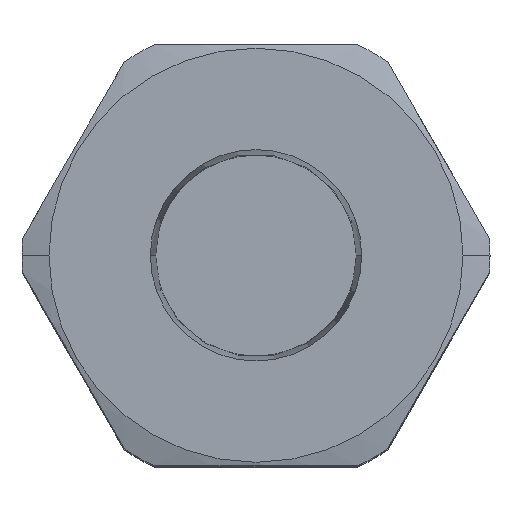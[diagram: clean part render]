
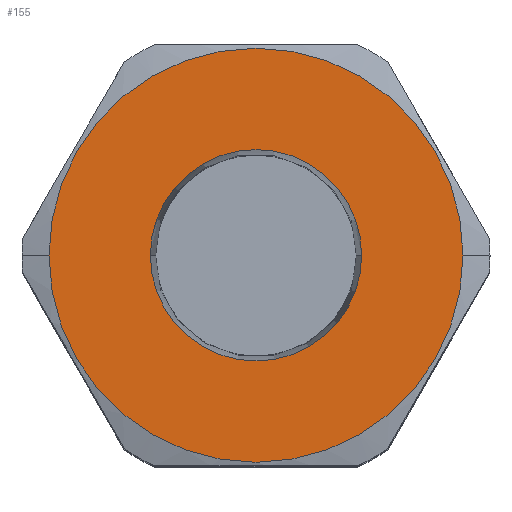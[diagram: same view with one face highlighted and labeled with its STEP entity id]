
A CAD part, top view. The second image highlights one B-rep face of the part: STEP entity #155.
In plain terms, the highlighted planar face has unit normal (0, 0, 1).
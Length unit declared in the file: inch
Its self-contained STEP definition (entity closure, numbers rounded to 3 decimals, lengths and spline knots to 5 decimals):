
#33 = CARTESIAN_POINT ( 'NONE',  ( 0.737, 0., 2.937 ) ) ;
#64 = CARTESIAN_POINT ( 'NONE',  ( -0.37634, 0., 2.937 ) ) ;
#73 = CARTESIAN_POINT ( 'NONE',  ( -0.737, 0., 2.937 ) ) ;
#155 = ADVANCED_FACE ( 'NONE', ( #1538, #1539 ), #1540, .T. ) ;
#166 = EDGE_CURVE ( 'NONE', #1486, #1467, #350, .T. ) ;
#182 = EDGE_CURVE ( 'NONE', #1341, #1459, #326, .T. ) ;
#281 = AXIS2_PLACEMENT_3D ( 'NONE', #889, #890, #891 ) ;
#283 = CIRCLE ( 'NONE', #281, 0.737 ) ;
#317 = AXIS2_PLACEMENT_3D ( 'NONE', #1534, #1542, #1543 ) ;
#319 = AXIS2_PLACEMENT_3D ( 'NONE', #997, #998, #999 ) ;
#322 = CIRCLE ( 'NONE', #319, 0.37634 ) ;
#324 = AXIS2_PLACEMENT_3D ( 'NONE', #1123, #1124, #1125 ) ;
#326 = CIRCLE ( 'NONE', #324, 0.737 ) ;
#348 = AXIS2_PLACEMENT_3D ( 'NONE', #1239, #1240, #1241 ) ;
#350 = CIRCLE ( 'NONE', #348, 0.37634 ) ;
#794 = ORIENTED_EDGE ( 'NONE', *, *, #182, .F. ) ;
#795 = ORIENTED_EDGE ( 'NONE', *, *, #1301, .F. ) ;
#796 = ORIENTED_EDGE ( 'NONE', *, *, #1279, .F. ) ;
#797 = ORIENTED_EDGE ( 'NONE', *, *, #166, .F. ) ;
#889 = CARTESIAN_POINT ( 'NONE',  ( 0., 0., 2.937 ) ) ;
#890 = DIRECTION ( 'NONE',  ( 0., 0., -1. ) ) ;
#891 = DIRECTION ( 'NONE',  ( -1., 0., 0. ) ) ;
#909 = CARTESIAN_POINT ( 'NONE',  ( 0.37634, 0., 2.937 ) ) ;
#997 = CARTESIAN_POINT ( 'NONE',  ( 0., 0., 2.937 ) ) ;
#998 = DIRECTION ( 'NONE',  ( 0., 0., 1. ) ) ;
#999 = DIRECTION ( 'NONE',  ( 1., 0., 0. ) ) ;
#1123 = CARTESIAN_POINT ( 'NONE',  ( 0., 0., 2.937 ) ) ;
#1124 = DIRECTION ( 'NONE',  ( 0., 0., -1. ) ) ;
#1125 = DIRECTION ( 'NONE',  ( -1., 0., 0. ) ) ;
#1239 = CARTESIAN_POINT ( 'NONE',  ( 0., 0., 2.937 ) ) ;
#1240 = DIRECTION ( 'NONE',  ( 0., 0., 1. ) ) ;
#1241 = DIRECTION ( 'NONE',  ( 1., 0., 0. ) ) ;
#1279 = EDGE_CURVE ( 'NONE', #1467, #1486, #322, .T. ) ;
#1301 = EDGE_CURVE ( 'NONE', #1459, #1341, #283, .T. ) ;
#1341 = VERTEX_POINT ( 'NONE', #33 ) ;
#1380 = EDGE_LOOP ( 'NONE', ( #797, #796 ) ) ;
#1387 = EDGE_LOOP ( 'NONE', ( #795, #794 ) ) ;
#1459 = VERTEX_POINT ( 'NONE', #73 ) ;
#1467 = VERTEX_POINT ( 'NONE', #64 ) ;
#1486 = VERTEX_POINT ( 'NONE', #909 ) ;
#1534 = CARTESIAN_POINT ( 'NONE',  ( 0.86603, 0., 2.937 ) ) ;
#1538 = FACE_BOUND ( 'NONE', #1380, .T. ) ;
#1539 = FACE_OUTER_BOUND ( 'NONE', #1387, .T. ) ;
#1540 = PLANE ( 'NONE',  #317 ) ;
#1542 = DIRECTION ( 'NONE',  ( 0., 0., 1. ) ) ;
#1543 = DIRECTION ( 'NONE',  ( 1., 0., 0. ) ) ;
